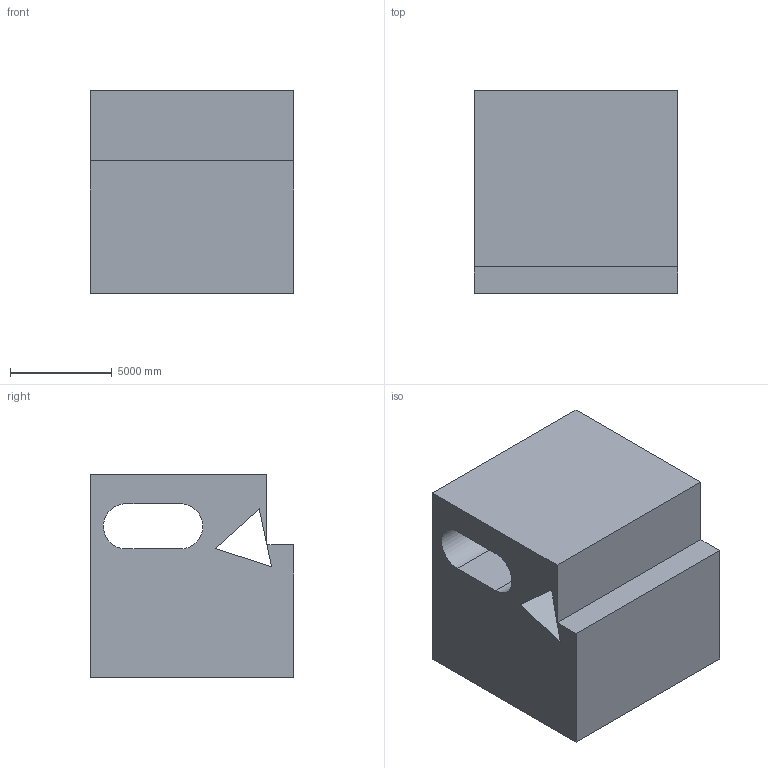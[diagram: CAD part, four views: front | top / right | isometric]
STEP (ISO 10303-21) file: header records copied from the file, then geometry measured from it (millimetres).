
FILE_DESCRIPTION (( 'STEP AP203' ), '1' );
FILE_NAME ('45.STEP', '2022-08-31T11:16:25', ( 'user' ), ( '' ), 'SwSTEP 2.0', 'SolidWorks 2021', '' );
FILE_SCHEMA (( 'CONFIG_CONTROL_DESIGN' ));
Length unit declared in the file: centimetre
Products named in the file (1): 45
Bounding box: 10000 x 10000 x 10000 mm (x, y, z)
Volume: 819081970846.2 mm3; surface area: 774768517.5 mm2
Topology: 1 solids, 1 shells, 15 faces, 39 edges, 26 vertices
Faces by surface type: plane 13, cylinder 2
Entity records: 542 total; most frequent: CARTESIAN_POINT 81, ORIENTED_EDGE 78, DIRECTION 75, EDGE_CURVE 39, LINE 35, VECTOR 35, VERTEX_POINT 26, AXIS2_PLACEMENT_3D 20
